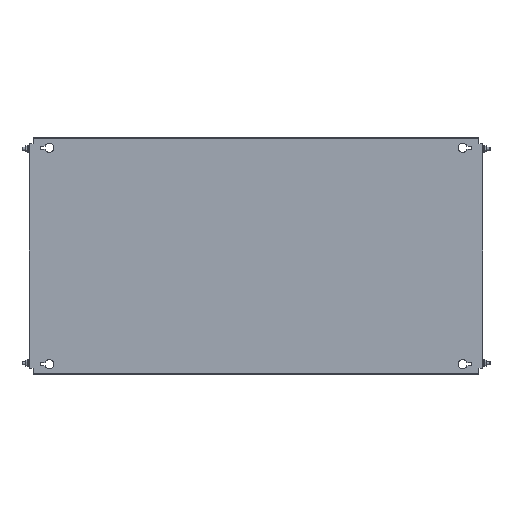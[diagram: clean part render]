
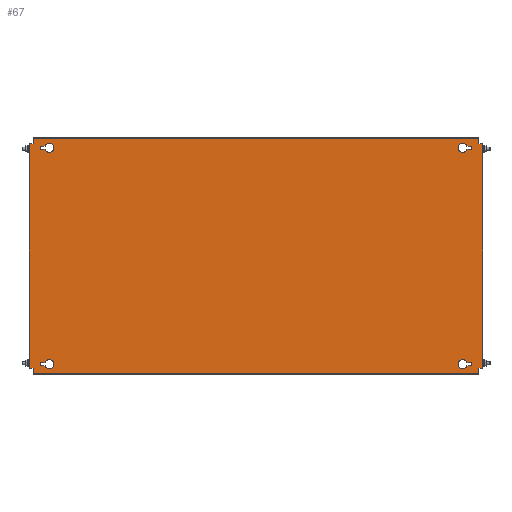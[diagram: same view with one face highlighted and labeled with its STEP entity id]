
A CAD part, top view. The second image highlights one B-rep face of the part: STEP entity #67.
In plain terms, the highlighted planar face has unit normal (0, 0, 1).
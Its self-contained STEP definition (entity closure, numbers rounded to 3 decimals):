
#67 = ADVANCED_FACE('',(#68,#103,#138,#300,#335),#370,.T.);
#68 = FACE_BOUND('',#69,.T.);
#69 = EDGE_LOOP('',(#70,#80,#88,#96));
#70 = ORIENTED_EDGE('',*,*,#71,.T.);
#71 = EDGE_CURVE('',#72,#74,#76,.T.);
#72 = VERTEX_POINT('',#73);
#73 = CARTESIAN_POINT('',(418.393,217.75,2.));
#74 = VERTEX_POINT('',#75);
#75 = CARTESIAN_POINT('',(428.,217.75,2.));
#76 = LINE('',#77,#78);
#77 = CARTESIAN_POINT('',(427.,217.75,2.));
#78 = VECTOR('',#79,1.);
#79 = DIRECTION('',(1.,0.,0.));
#80 = ORIENTED_EDGE('',*,*,#81,.T.);
#81 = EDGE_CURVE('',#74,#82,#84,.T.);
#82 = VERTEX_POINT('',#83);
#83 = CARTESIAN_POINT('',(428.,211.25,2.));
#84 = LINE('',#85,#86);
#85 = CARTESIAN_POINT('',(428.,217.75,2.));
#86 = VECTOR('',#87,1.);
#87 = DIRECTION('',(0.,-1.,0.));
#88 = ORIENTED_EDGE('',*,*,#89,.T.);
#89 = EDGE_CURVE('',#82,#90,#92,.T.);
#90 = VERTEX_POINT('',#91);
#91 = CARTESIAN_POINT('',(418.393,211.25,2.));
#92 = LINE('',#93,#94);
#93 = CARTESIAN_POINT('',(427.,211.25,2.));
#94 = VECTOR('',#95,1.);
#95 = DIRECTION('',(-1.,0.,0.));
#96 = ORIENTED_EDGE('',*,*,#97,.T.);
#97 = EDGE_CURVE('',#90,#72,#98,.T.);
#98 = CIRCLE('',#99,9.);
#99 = AXIS2_PLACEMENT_3D('',#100,#101,#102);
#100 = CARTESIAN_POINT('',(410.,214.5,2.));
#101 = DIRECTION('',(0.,0.,-1.));
#102 = DIRECTION('',(1.,0.,0.));
#103 = FACE_BOUND('',#104,.T.);
#104 = EDGE_LOOP('',(#105,#115,#123,#131));
#105 = ORIENTED_EDGE('',*,*,#106,.T.);
#106 = EDGE_CURVE('',#107,#109,#111,.T.);
#107 = VERTEX_POINT('',#108);
#108 = CARTESIAN_POINT('',(-418.393,-217.75,2.));
#109 = VERTEX_POINT('',#110);
#110 = CARTESIAN_POINT('',(-428.,-217.75,2.));
#111 = LINE('',#112,#113);
#112 = CARTESIAN_POINT('',(-427.,-217.75,2.));
#113 = VECTOR('',#114,1.);
#114 = DIRECTION('',(-1.,0.,0.));
#115 = ORIENTED_EDGE('',*,*,#116,.T.);
#116 = EDGE_CURVE('',#109,#117,#119,.T.);
#117 = VERTEX_POINT('',#118);
#118 = CARTESIAN_POINT('',(-428.,-211.25,2.));
#119 = LINE('',#120,#121);
#120 = CARTESIAN_POINT('',(-428.,-217.75,2.));
#121 = VECTOR('',#122,1.);
#122 = DIRECTION('',(0.,1.,0.));
#123 = ORIENTED_EDGE('',*,*,#124,.T.);
#124 = EDGE_CURVE('',#117,#125,#127,.T.);
#125 = VERTEX_POINT('',#126);
#126 = CARTESIAN_POINT('',(-418.393,-211.25,2.));
#127 = LINE('',#128,#129);
#128 = CARTESIAN_POINT('',(-427.,-211.25,2.));
#129 = VECTOR('',#130,1.);
#130 = DIRECTION('',(1.,-0.,-0.));
#131 = ORIENTED_EDGE('',*,*,#132,.T.);
#132 = EDGE_CURVE('',#125,#107,#133,.T.);
#133 = CIRCLE('',#134,9.);
#134 = AXIS2_PLACEMENT_3D('',#135,#136,#137);
#135 = CARTESIAN_POINT('',(-410.,-214.5,2.));
#136 = DIRECTION('',(0.,0.,-1.));
#137 = DIRECTION('',(-1.,0.,0.));
#138 = FACE_BOUND('',#139,.T.);
#139 = EDGE_LOOP('',(#140,#150,#158,#166,#174,#182,#190,#198,#206,#214,
    #222,#230,#238,#246,#254,#262,#270,#278,#286,#294));
#140 = ORIENTED_EDGE('',*,*,#141,.F.);
#141 = EDGE_CURVE('',#142,#144,#146,.T.);
#142 = VERTEX_POINT('',#143);
#143 = CARTESIAN_POINT('',(-447.4,222.5,2.));
#144 = VERTEX_POINT('',#145);
#145 = CARTESIAN_POINT('',(-442.,222.5,2.));
#146 = LINE('',#147,#148);
#147 = CARTESIAN_POINT('',(-448.,222.5,2.));
#148 = VECTOR('',#149,1.);
#149 = DIRECTION('',(1.,0.,-0.));
#150 = ORIENTED_EDGE('',*,*,#151,.T.);
#151 = EDGE_CURVE('',#142,#152,#154,.T.);
#152 = VERTEX_POINT('',#153);
#153 = CARTESIAN_POINT('',(-450.,222.5,2.));
#154 = LINE('',#155,#156);
#155 = CARTESIAN_POINT('',(-447.4,222.5,2.));
#156 = VECTOR('',#157,1.);
#157 = DIRECTION('',(-1.,0.,0.));
#158 = ORIENTED_EDGE('',*,*,#159,.F.);
#159 = EDGE_CURVE('',#160,#152,#162,.T.);
#160 = VERTEX_POINT('',#161);
#161 = CARTESIAN_POINT('',(-450.,-222.5,2.));
#162 = LINE('',#163,#164);
#163 = CARTESIAN_POINT('',(-450.,-232.5,2.));
#164 = VECTOR('',#165,1.);
#165 = DIRECTION('',(0.,1.,-0.));
#166 = ORIENTED_EDGE('',*,*,#167,.F.);
#167 = EDGE_CURVE('',#168,#160,#170,.T.);
#168 = VERTEX_POINT('',#169);
#169 = CARTESIAN_POINT('',(-447.4,-222.5,2.));
#170 = LINE('',#171,#172);
#171 = CARTESIAN_POINT('',(-442.,-222.5,2.));
#172 = VECTOR('',#173,1.);
#173 = DIRECTION('',(-1.,-0.,-0.));
#174 = ORIENTED_EDGE('',*,*,#175,.T.);
#175 = EDGE_CURVE('',#168,#176,#178,.T.);
#176 = VERTEX_POINT('',#177);
#177 = CARTESIAN_POINT('',(-442.,-222.5,2.));
#178 = LINE('',#179,#180);
#179 = CARTESIAN_POINT('',(-448.,-222.5,2.));
#180 = VECTOR('',#181,1.);
#181 = DIRECTION('',(1.,0.,-0.));
#182 = ORIENTED_EDGE('',*,*,#183,.T.);
#183 = EDGE_CURVE('',#176,#184,#186,.T.);
#184 = VERTEX_POINT('',#185);
#185 = CARTESIAN_POINT('',(-442.,-231.9,2.));
#186 = LINE('',#187,#188);
#187 = CARTESIAN_POINT('',(-442.,232.5,2.));
#188 = VECTOR('',#189,1.);
#189 = DIRECTION('',(0.,-1.,0.));
#190 = ORIENTED_EDGE('',*,*,#191,.T.);
#191 = EDGE_CURVE('',#184,#192,#194,.T.);
#192 = VERTEX_POINT('',#193);
#193 = CARTESIAN_POINT('',(-442.,-232.5,2.));
#194 = LINE('',#195,#196);
#195 = CARTESIAN_POINT('',(-442.,-231.9,2.));
#196 = VECTOR('',#197,1.);
#197 = DIRECTION('',(-0.,-1.,-0.));
#198 = ORIENTED_EDGE('',*,*,#199,.T.);
#199 = EDGE_CURVE('',#192,#200,#202,.T.);
#200 = VERTEX_POINT('',#201);
#201 = CARTESIAN_POINT('',(442.,-232.5,2.));
#202 = LINE('',#203,#204);
#203 = CARTESIAN_POINT('',(442.,-232.5,2.));
#204 = VECTOR('',#205,1.);
#205 = DIRECTION('',(1.,0.,0.));
#206 = ORIENTED_EDGE('',*,*,#207,.F.);
#207 = EDGE_CURVE('',#208,#200,#210,.T.);
#208 = VERTEX_POINT('',#209);
#209 = CARTESIAN_POINT('',(442.,-231.9,2.));
#210 = LINE('',#211,#212);
#211 = CARTESIAN_POINT('',(442.,-232.5,2.));
#212 = VECTOR('',#213,1.);
#213 = DIRECTION('',(0.,-1.,0.));
#214 = ORIENTED_EDGE('',*,*,#215,.T.);
#215 = EDGE_CURVE('',#208,#216,#218,.T.);
#216 = VERTEX_POINT('',#217);
#217 = CARTESIAN_POINT('',(442.,-222.5,2.));
#218 = LINE('',#219,#220);
#219 = CARTESIAN_POINT('',(442.,232.5,2.));
#220 = VECTOR('',#221,1.);
#221 = DIRECTION('',(0.,1.,-0.));
#222 = ORIENTED_EDGE('',*,*,#223,.F.);
#223 = EDGE_CURVE('',#224,#216,#226,.T.);
#224 = VERTEX_POINT('',#225);
#225 = CARTESIAN_POINT('',(447.4,-222.5,2.));
#226 = LINE('',#227,#228);
#227 = CARTESIAN_POINT('',(448.,-222.5,2.));
#228 = VECTOR('',#229,1.);
#229 = DIRECTION('',(-1.,0.,-0.));
#230 = ORIENTED_EDGE('',*,*,#231,.T.);
#231 = EDGE_CURVE('',#224,#232,#234,.T.);
#232 = VERTEX_POINT('',#233);
#233 = CARTESIAN_POINT('',(450.,-222.5,2.));
#234 = LINE('',#235,#236);
#235 = CARTESIAN_POINT('',(447.4,-222.5,2.));
#236 = VECTOR('',#237,1.);
#237 = DIRECTION('',(1.,-0.,0.));
#238 = ORIENTED_EDGE('',*,*,#239,.F.);
#239 = EDGE_CURVE('',#240,#232,#242,.T.);
#240 = VERTEX_POINT('',#241);
#241 = CARTESIAN_POINT('',(450.,222.5,2.));
#242 = LINE('',#243,#244);
#243 = CARTESIAN_POINT('',(450.,-232.5,2.));
#244 = VECTOR('',#245,1.);
#245 = DIRECTION('',(0.,-1.,-0.));
#246 = ORIENTED_EDGE('',*,*,#247,.F.);
#247 = EDGE_CURVE('',#248,#240,#250,.T.);
#248 = VERTEX_POINT('',#249);
#249 = CARTESIAN_POINT('',(447.4,222.5,2.));
#250 = LINE('',#251,#252);
#251 = CARTESIAN_POINT('',(-442.,222.5,2.));
#252 = VECTOR('',#253,1.);
#253 = DIRECTION('',(1.,-0.,0.));
#254 = ORIENTED_EDGE('',*,*,#255,.T.);
#255 = EDGE_CURVE('',#248,#256,#258,.T.);
#256 = VERTEX_POINT('',#257);
#257 = CARTESIAN_POINT('',(442.,222.5,2.));
#258 = LINE('',#259,#260);
#259 = CARTESIAN_POINT('',(448.,222.5,2.));
#260 = VECTOR('',#261,1.);
#261 = DIRECTION('',(-1.,0.,-0.));
#262 = ORIENTED_EDGE('',*,*,#263,.T.);
#263 = EDGE_CURVE('',#256,#264,#266,.T.);
#264 = VERTEX_POINT('',#265);
#265 = CARTESIAN_POINT('',(442.,231.9,2.));
#266 = LINE('',#267,#268);
#267 = CARTESIAN_POINT('',(442.,232.5,2.));
#268 = VECTOR('',#269,1.);
#269 = DIRECTION('',(0.,1.,-0.));
#270 = ORIENTED_EDGE('',*,*,#271,.T.);
#271 = EDGE_CURVE('',#264,#272,#274,.T.);
#272 = VERTEX_POINT('',#273);
#273 = CARTESIAN_POINT('',(442.,232.5,2.));
#274 = LINE('',#275,#276);
#275 = CARTESIAN_POINT('',(442.,231.9,2.));
#276 = VECTOR('',#277,1.);
#277 = DIRECTION('',(-0.,1.,-0.));
#278 = ORIENTED_EDGE('',*,*,#279,.T.);
#279 = EDGE_CURVE('',#272,#280,#282,.T.);
#280 = VERTEX_POINT('',#281);
#281 = CARTESIAN_POINT('',(-442.,232.5,2.));
#282 = LINE('',#283,#284);
#283 = CARTESIAN_POINT('',(-442.,232.5,2.));
#284 = VECTOR('',#285,1.);
#285 = DIRECTION('',(-1.,0.,0.));
#286 = ORIENTED_EDGE('',*,*,#287,.F.);
#287 = EDGE_CURVE('',#288,#280,#290,.T.);
#288 = VERTEX_POINT('',#289);
#289 = CARTESIAN_POINT('',(-442.,231.9,2.));
#290 = LINE('',#291,#292);
#291 = CARTESIAN_POINT('',(-442.,-232.5,2.));
#292 = VECTOR('',#293,1.);
#293 = DIRECTION('',(0.,1.,-0.));
#294 = ORIENTED_EDGE('',*,*,#295,.T.);
#295 = EDGE_CURVE('',#288,#144,#296,.T.);
#296 = LINE('',#297,#298);
#297 = CARTESIAN_POINT('',(-442.,232.5,2.));
#298 = VECTOR('',#299,1.);
#299 = DIRECTION('',(0.,-1.,0.));
#300 = FACE_BOUND('',#301,.T.);
#301 = EDGE_LOOP('',(#302,#312,#320,#328));
#302 = ORIENTED_EDGE('',*,*,#303,.F.);
#303 = EDGE_CURVE('',#304,#306,#308,.T.);
#304 = VERTEX_POINT('',#305);
#305 = CARTESIAN_POINT('',(428.,-211.25,2.));
#306 = VERTEX_POINT('',#307);
#307 = CARTESIAN_POINT('',(418.393,-211.25,2.));
#308 = LINE('',#309,#310);
#309 = CARTESIAN_POINT('',(418.393,-211.25,2.));
#310 = VECTOR('',#311,1.);
#311 = DIRECTION('',(-1.,0.,0.));
#312 = ORIENTED_EDGE('',*,*,#313,.F.);
#313 = EDGE_CURVE('',#314,#304,#316,.T.);
#314 = VERTEX_POINT('',#315);
#315 = CARTESIAN_POINT('',(428.,-217.75,2.));
#316 = LINE('',#317,#318);
#317 = CARTESIAN_POINT('',(428.,-211.25,2.));
#318 = VECTOR('',#319,1.);
#319 = DIRECTION('',(0.,1.,0.));
#320 = ORIENTED_EDGE('',*,*,#321,.F.);
#321 = EDGE_CURVE('',#322,#314,#324,.T.);
#322 = VERTEX_POINT('',#323);
#323 = CARTESIAN_POINT('',(418.393,-217.75,2.));
#324 = LINE('',#325,#326);
#325 = CARTESIAN_POINT('',(427.,-217.75,2.));
#326 = VECTOR('',#327,1.);
#327 = DIRECTION('',(1.,0.,0.));
#328 = ORIENTED_EDGE('',*,*,#329,.F.);
#329 = EDGE_CURVE('',#306,#322,#330,.T.);
#330 = CIRCLE('',#331,9.);
#331 = AXIS2_PLACEMENT_3D('',#332,#333,#334);
#332 = CARTESIAN_POINT('',(410.,-214.5,2.));
#333 = DIRECTION('',(0.,-0.,1.));
#334 = DIRECTION('',(1.,0.,0.));
#335 = FACE_BOUND('',#336,.T.);
#336 = EDGE_LOOP('',(#337,#347,#355,#363));
#337 = ORIENTED_EDGE('',*,*,#338,.F.);
#338 = EDGE_CURVE('',#339,#341,#343,.T.);
#339 = VERTEX_POINT('',#340);
#340 = CARTESIAN_POINT('',(-428.,211.25,2.));
#341 = VERTEX_POINT('',#342);
#342 = CARTESIAN_POINT('',(-418.393,211.25,2.));
#343 = LINE('',#344,#345);
#344 = CARTESIAN_POINT('',(-418.393,211.25,2.));
#345 = VECTOR('',#346,1.);
#346 = DIRECTION('',(1.,0.,0.));
#347 = ORIENTED_EDGE('',*,*,#348,.F.);
#348 = EDGE_CURVE('',#349,#339,#351,.T.);
#349 = VERTEX_POINT('',#350);
#350 = CARTESIAN_POINT('',(-428.,217.75,2.));
#351 = LINE('',#352,#353);
#352 = CARTESIAN_POINT('',(-428.,211.25,2.));
#353 = VECTOR('',#354,1.);
#354 = DIRECTION('',(0.,-1.,0.));
#355 = ORIENTED_EDGE('',*,*,#356,.F.);
#356 = EDGE_CURVE('',#357,#349,#359,.T.);
#357 = VERTEX_POINT('',#358);
#358 = CARTESIAN_POINT('',(-418.393,217.75,2.));
#359 = LINE('',#360,#361);
#360 = CARTESIAN_POINT('',(-427.,217.75,2.));
#361 = VECTOR('',#362,1.);
#362 = DIRECTION('',(-1.,0.,0.));
#363 = ORIENTED_EDGE('',*,*,#364,.F.);
#364 = EDGE_CURVE('',#341,#357,#365,.T.);
#365 = CIRCLE('',#366,9.);
#366 = AXIS2_PLACEMENT_3D('',#367,#368,#369);
#367 = CARTESIAN_POINT('',(-410.,214.5,2.));
#368 = DIRECTION('',(0.,-0.,1.));
#369 = DIRECTION('',(-1.,0.,0.));
#370 = PLANE('',#371);
#371 = AXIS2_PLACEMENT_3D('',#372,#373,#374);
#372 = CARTESIAN_POINT('',(-442.,-232.5,2.));
#373 = DIRECTION('',(-0.,0.,1.));
#374 = DIRECTION('',(1.,0.,0.));
